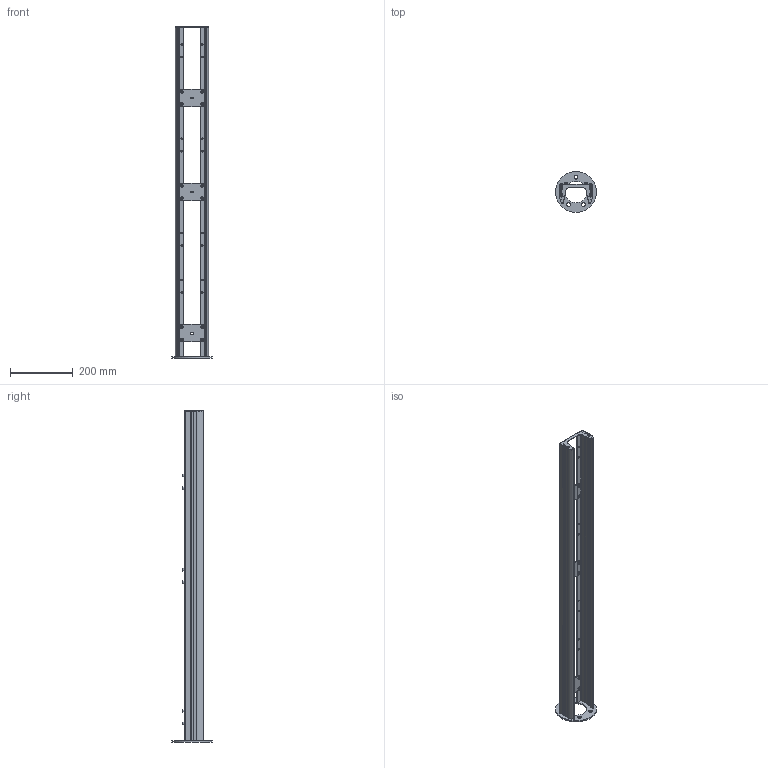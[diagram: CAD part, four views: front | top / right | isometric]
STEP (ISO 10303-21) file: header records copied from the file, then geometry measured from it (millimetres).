
FILE_DESCRIPTION(/* description */ (''),/* implementation_level */ '2;1');
FILE_NAME(/* name */ 'AAA001A-01-Device_Column_1050mm.stp',/* time_stamp */ '2025-11-11T23:20:39+01:00',/* author */ (''),/* organization */ (''),/* preprocessor_version */ 'ST-DEVELOPER v20',/* originating_system */ 'SIEMENS PLM Software NX2412.4001',/* authorisation */ '');
FILE_SCHEMA (('AP203_CONFIGURATION_CONTROLLED_3D_DESIGN_OF_MECHANICAL_PARTS_AND_ASSEMBLIES_MIM_LF { 1 0 10303 403 2 1 2}'));
Products named in the file (1): AS007798_objects
Bounding box: 130 x 130 x 1058.25 mm (x, y, z)
Volume: 683342.3 mm3; surface area: 699571.9 mm2
Topology: 75 solids, 75 shells, 3041 faces, 8284 edges, 5421 vertices
Faces by surface type: plane 1688, cylinder 701, cone 618, torus 20, bspline 10, sphere 4
Full cylindrical faces by diameter (mm): 4.2 x12, 5 x40, 5.25 x2, 5.3 x12, 5.5 x24, 5.6 x12, 5.795 x28, 7 x12, 7.2 x4, 8.5 x12, 10 x12, 12 x7, 68 x1, 130 x1
Entity records: 116262 total; most frequent: CARTESIAN_POINT 36806, DIRECTION 17206, ORIENTED_EDGE 15988, EDGE_CURVE 7994, AXIS2_PLACEMENT_3D 6578, VERTEX_POINT 5352, LINE 4050, VECTOR 4050
